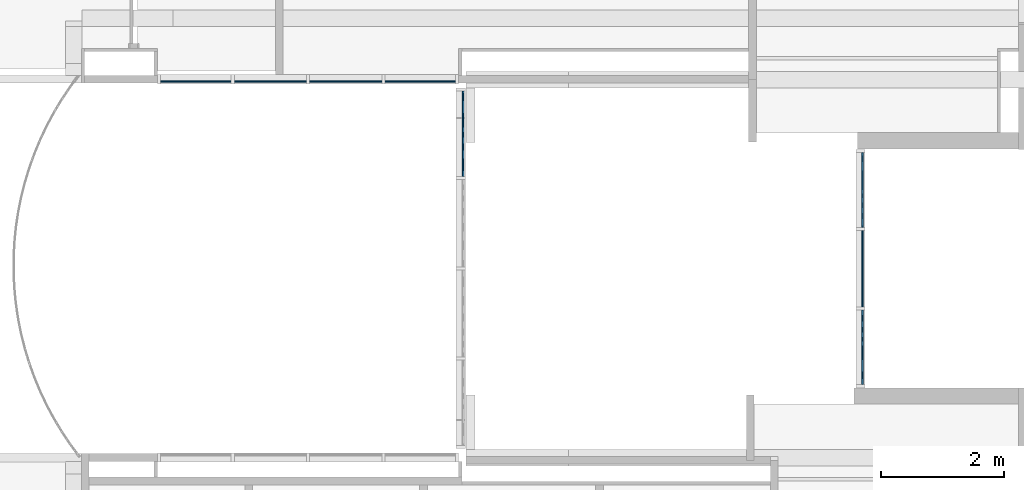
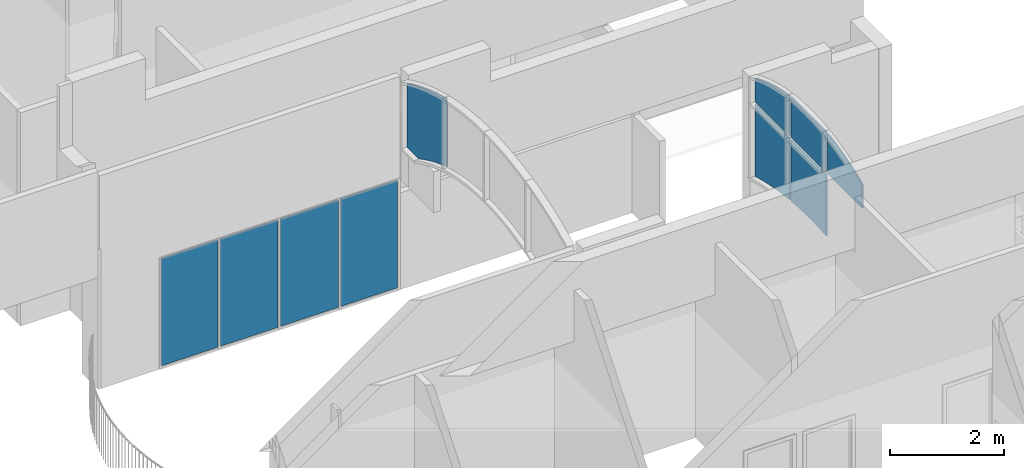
# One storey, part 5 of 45: 10 plates, 3 elements without a shape of their own.
"""IFC2X3 building model written with IfcOpenShell, lengths in metres."""

from ifc_helpers import new_model, entity, si_unit, converted_unit, frame, frame_2d, origin, origin_2d_with_axis, place, context, project, spatial, polyline, circle_curve, parameter, trimmed, segment, composite_curve, rectangle, outline, extrude, face_set, surface_model, source, transform, mapped, material, type_object, type_shapes, element, aggregate, save


model = new_model("IFC2X3")

# Units and contexts
model_context = context("Model", 3, precision=1e-09, world=origin())
plan_context = context("Plan", 3, precision=1e-09, world=origin())
ifc_project = project(units=[si_unit("LENGTHUNIT", "METRE"), si_unit("AREAUNIT", "SQUARE_METRE"), si_unit("VOLUMEUNIT", "CUBIC_METRE"), converted_unit("PLANEANGLEUNIT", "DEGREE", entity("IfcRatioMeasure", 0.01745329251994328), si_unit("PLANEANGLEUNIT", "RADIAN"), dimensions=[0, 0, 0, 0, 0, 0, 0]), si_unit("TIMEUNIT", "SECOND")], contexts=[model_context, plan_context])

# Site, building, storey
site_placement = place(None, origin())
site = spatial("IfcSite", under=ifc_project, at=site_placement, Name="Default", CompositionType="ELEMENT")
building_placement = place(site_placement, origin())
building = spatial("IfcBuilding", under=site, at=building_placement, CompositionType="ELEMENT")
storey_placement = place(building_placement, frame((0.0, 0.0, 4.570000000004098)))
storey = spatial("IfcBuildingStorey", under=building, at=storey_placement, Name="Second Floor", CompositionType="ELEMENT", Elevation=4.570000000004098)

# Curtain wall, plates
curtain_wall_1_placement = place(storey_placement, origin())
curtain_wall_1 = element("IfcCurtainWall", 1, at=curtain_wall_1_placement, inside=storey, Name="Curtain Wall:Storefront", ObjectType="Curtain Wall:Storefront")
ifc_material = material(Name="Glass")
plate_type_1 = type_object("IfcPlateType", Name="Glazed", PredefinedType="CURTAIN_PANEL")
shared_shape_1 = source(origin(), model_context, "Body", "SweptSolid", [
    extrude(rectangle(XDim=0.025, YDim=1.147693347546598, at=origin_2d_with_axis()), frame((0.0, 0.037, 0.0), z_axis=(0.0, 0.0, 1.0), x_axis=(0.0, 1.0, 0.0)), (0.0, 0.0, 1.0), 2.3),
])
type_shapes(plate_type_1, [shared_shape_1])
plate_1_placement = place(storey_placement, frame((-9.605573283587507, 34.7718015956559, 0.05), z_axis=(0.0, 0.0, 1.0), x_axis=(-1.0, 0.0, 0.0)))
plate_1 = element("IfcPlate", 2, at=plate_1_placement, type_object=plate_type_1, material=ifc_material, Name="System Panel:Glazed:Glazed", ObjectType="Glazed", context=model_context, shape_type="MappedRepresentation", body=[
    mapped(shared_shape_1, transform((0.0, 0.0, 0.0), scale=1.0)),
])
plate_2_placement = place(storey_placement, frame((-13.2486533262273, 34.77180159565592, 0.05), z_axis=(0.0, 0.0, 1.0), x_axis=(-1.0, 0.0, 0.0)))
plate_2 = element("IfcPlate", 3, at=plate_2_placement, type_object=plate_type_1, material=ifc_material, Name="System Panel:Glazed:Glazed", ObjectType="Glazed", context=model_context, shape_type="MappedRepresentation", body=[
    mapped(shared_shape_1, transform((0.0, 0.0, 0.0), scale=1.0)),
])
plate_type_2 = type_object("IfcPlateType", Name="Glazed", PredefinedType="CURTAIN_PANEL")
shared_shape_2 = source(origin(), model_context, "Body", "SweptSolid", [
    extrude(rectangle(XDim=0.025, YDim=1.172693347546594, at=origin_2d_with_axis()), frame((0.0, 0.037, 0.0), z_axis=(0.0, 0.0, 1.0), x_axis=(0.0, 1.0, 0.0)), (0.0, 0.0, 1.0), 2.3),
])
type_shapes(plate_type_2, [shared_shape_2])
plate_3_placement = place(storey_placement, frame((-12.0384599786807, 34.77180159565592, 0.05), z_axis=(0.0, 0.0, 1.0), x_axis=(-1.0, 0.0, 0.0)))
plate_3 = element("IfcPlate", 4, at=plate_3_placement, type_object=plate_type_2, material=ifc_material, Name="System Panel:Glazed:Glazed", ObjectType="Glazed", context=model_context, shape_type="MappedRepresentation", body=[
    mapped(shared_shape_2, transform((0.0, 0.0, 0.0), scale=1.0)),
])
plate_4_placement = place(storey_placement, frame((-10.8157666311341, 34.77180159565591, 0.05), z_axis=(0.0, 0.0, 1.0), x_axis=(-1.0, 0.0, 0.0)))
plate_4 = element("IfcPlate", 5, at=plate_4_placement, type_object=plate_type_2, material=ifc_material, Name="System Panel:Glazed:Glazed", ObjectType="Glazed", context=model_context, shape_type="MappedRepresentation", body=[
    mapped(shared_shape_2, transform((0.0, 0.0, 0.0), scale=1.0)),
])
aggregate(curtain_wall_1, [plate_3, plate_4, plate_1, plate_2])

curtain_wall_2_placement = place(storey_placement, origin())
curtain_wall_2 = element("IfcCurtainWall", 6, at=curtain_wall_2_placement, inside=storey, Name="Curtain Wall:Storefront", ObjectType="Curtain Wall:Storefront")
plate_type_3 = type_object("IfcPlateType", Name="Glazed", PredefinedType="CURTAIN_PANEL")
shared_shape_3 = source(origin(), model_context, "Body", "SweptSolid", [
    extrude(outline(composite_curve([segment(polyline([(-0.8340070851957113, -0.6075000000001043), (0.7188856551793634, -0.6075000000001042)]), True, "CONTINUOUS"), segment(polyline([(0.7188856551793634, -0.6075000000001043), (0.7188856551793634, 0.6075000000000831)]), True, "CONTINUOUS"), segment(polyline([(0.7188856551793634, 0.6075000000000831), (-0.60376422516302, 0.6075000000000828)]), True, "CONTINUOUS"), segment(trimmed(circle_curve(frame_2d((-7.460299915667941, 1.277499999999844), x_axis=(0.9591411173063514, -0.2829281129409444)), 6.889193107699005), [parameter(0.5554313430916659)], [parameter(10.85398953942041)], True, "PARAMETER"), False, "CONTINUOUS")], self_intersect=False)), frame((0.0, 0.02450000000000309, 0.8340070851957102), z_axis=(0.0, 1.0, 0.0), x_axis=(0.0, 0.0, 1.0)), (0.0, 0.0, 1.0), 0.025),
])
type_shapes(plate_type_3, [shared_shape_3])
plate_5_placement = place(storey_placement, frame((-2.454499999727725, 32.97249999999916, 0.8221072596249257), z_axis=(0.0, 0.0, 1.0), x_axis=(0.0, -1.0, 0.0)))
plate_5 = element("IfcPlate", 7, at=plate_5_placement, type_object=plate_type_3, material=ifc_material, Name="System Panel:Glazed:Glazed", ObjectType="Glazed", context=model_context, shape_type="MappedRepresentation", body=[
    mapped(shared_shape_3, transform((0.0, 0.0, 0.0), scale=1.0)),
])
plate_type_4 = type_object("IfcPlateType", Name="Glazed", PredefinedType="CURTAIN_PANEL")
shared_shape_4 = source(origin(), model_context, "Body", "SurfaceModel", [
    surface_model("IfcFaceBasedSurfaceModel", [(0.001595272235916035, 0.0, 0.001595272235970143), (0.001595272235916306, 0.0, 1.319543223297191), (1.241595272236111, 0.0, 1.319543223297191), (1.241595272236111, 0.0, 0.001595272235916), (0.9939177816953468, 0.0, 0.01948242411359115), (0.7457565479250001, 0.0, 0.02843181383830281), (0.4974339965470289, 0.0, 0.02843181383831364), (0.2492727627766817, 0.0, 0.01948242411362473), (0.001595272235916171, 0.025, 0.00159527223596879), (0.2492727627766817, 0.025, 0.01948242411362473), (0.4974339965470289, 0.025, 0.02843181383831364), (0.7457565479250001, 0.025, 0.02843181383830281), (0.9939177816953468, 0.025, 0.01948242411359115), (1.241595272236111, 0.025, 0.001595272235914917), (1.241595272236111, 0.025, 1.319543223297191), (0.001595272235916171, 0.025, 1.319543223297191)], [face_set([[[0, 1, 2, 3, 4, 5, 6, 7]], [[8, 9, 10, 11, 12, 13, 14, 15]], [[10, 6, 7, 9]], [[7, 0, 8, 9]], [[6, 10, 11, 5]], [[12, 4, 5, 11]], [[13, 3, 4, 12]], [[2, 3, 13, 14]], [[1, 15, 14, 2]], [[0, 8, 15, 1]]])]),
])
type_shapes(plate_type_4, [shared_shape_4])
plate_6_placement = place(storey_placement, frame((-2.429999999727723, 32.31659527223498, 1.055456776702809), z_axis=(0.0, 0.0, 1.0), x_axis=(0.0, -1.0, 0.0)))
plate_6 = element("IfcPlate", 8, at=plate_6_placement, type_object=plate_type_4, material=ifc_material, Name="System Panel:Glazed:Glazed", ObjectType="Glazed", context=model_context, shape_type="MappedRepresentation", body=[
    mapped(shared_shape_4, transform((0.0, 0.0, 0.0), scale=1.0)),
])

# Curtain wall, plate
curtain_wall_3_placement = place(storey_placement, origin())
curtain_wall_3 = element("IfcCurtainWall", 9, at=curtain_wall_3_placement, inside=storey, Name="Curtain Wall:Storefront", ObjectType="Curtain Wall:Storefront")
plate_type_5 = type_object("IfcPlateType", Name="Glazed", PredefinedType="CURTAIN_PANEL")
shared_shape_5 = source(origin(), model_context, "Body", "SweptSolid", [
    extrude(outline(composite_curve([segment(polyline([(-0.7322350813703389, -0.6419297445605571), (0.6361005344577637, -0.6419297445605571)]), True, "CONTINUOUS"), segment(trimmed(circle_curve(frame_2d((-5.102262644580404, 2.248020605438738), x_axis=(0.9737099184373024, -0.2277915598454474)), 6.425000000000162), [parameter(346.4363798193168)], [parameter(359.6665005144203)], True, "PARAMETER"), True, "CONTINUOUS"), segment(polyline([(1.145198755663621, 0.7480702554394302), (-0.3168291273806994, 0.7480702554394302)]), True, "CONTINUOUS"), segment(trimmed(circle_curve(frame_2d((-5.102262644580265, 2.248020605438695), x_axis=(0.8700961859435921, -0.4928819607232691)), 5.014999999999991), [parameter(0.15090790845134)], [parameter(12.12705890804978)], True, "PARAMETER"), False, "CONTINUOUS"), segment(polyline([(-0.7322350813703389, -0.21228102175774), (-0.7322350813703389, -0.6419297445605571)]), True, "CONTINUOUS")], self_intersect=False)), frame((-0.05307025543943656, 0.02449999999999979, 0.7322350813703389), z_axis=(0.0, 1.0, 0.0), x_axis=(0.0, 0.0, 1.0)), (0.0, 0.0, 1.0), 0.025),
])
type_shapes(plate_type_5, [shared_shape_5])
plate_7_placement = place(storey_placement, frame((-8.945999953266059, 33.88499999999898, 3.12), z_axis=(0.0, 0.0, 1.0), x_axis=(0.0, -1.0, 0.0)))
plate_7 = element("IfcPlate", 10, at=plate_7_placement, type_object=plate_type_5, material=ifc_material, Name="System Panel:Glazed:Glazed", ObjectType="Glazed", context=model_context, shape_type="MappedRepresentation", body=[
    mapped(shared_shape_5, transform((0.0, 0.0, 0.0), scale=1.0)),
])
aggregate(curtain_wall_3, [plate_7])

# Plate
plate_type_6 = type_object("IfcPlateType", Name="Glazed", PredefinedType="CURTAIN_PANEL")
shared_shape_6 = source(origin(), model_context, "Body", "SweptSolid", [
    extrude(rectangle(XDim=0.8680717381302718, YDim=0.025, at=frame_2d((0.0, 0.0), x_axis=(0.0, 1.0))), frame((-0.6200000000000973, 0.03699999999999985, 0.4340358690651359), z_axis=(1.0, 0.0, 0.0), x_axis=(0.0, 1.0, 0.0)), (0.0, 0.0, 1.0), 1.240000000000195),
])
type_shapes(plate_type_6, [shared_shape_6])
plate_8_placement = place(storey_placement, frame((-2.454499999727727, 31.69499999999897, 2.424999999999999), z_axis=(0.0, 0.0, 1.0), x_axis=(0.0, -1.0, 0.0)))
plate_8 = element("IfcPlate", 11, at=plate_8_placement, type_object=plate_type_6, material=ifc_material, Name="System Panel:Glazed:Glazed", ObjectType="Glazed", context=model_context, shape_type="MappedRepresentation", body=[
    mapped(shared_shape_6, transform((0.0, 0.0, 0.0), scale=1.0)),
])

plate_type_7 = type_object("IfcPlateType", Name="Glazed", PredefinedType="CURTAIN_PANEL")
shared_shape_7 = source(origin(), model_context, "Body", "SweptSolid", [
    extrude(outline(composite_curve([segment(polyline([(-0.341940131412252, -0.6075000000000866), (0.1648175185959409, -0.6075000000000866)]), True, "CONTINUOUS"), segment(trimmed(circle_curve(frame_2d((-4.039664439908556, 1.277500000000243), x_axis=(0.9903651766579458, -0.1384803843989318)), 4.607699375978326), [parameter(343.811745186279)], [parameter(359.5989700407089)], True, "PARAMETER"), True, "CONTINUOUS"), segment(polyline([(0.5190627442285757, 0.6075000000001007), (-0.341940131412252, 0.6075000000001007)]), True, "CONTINUOUS"), segment(polyline([(-0.341940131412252, 0.6075000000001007), (-0.341940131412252, -0.6075000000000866)]), True, "CONTINUOUS")], self_intersect=False)), frame((0.0, 0.02449999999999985, 0.341940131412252), z_axis=(0.0, 1.0, 0.0), x_axis=(0.0, 0.0, 1.0)), (0.0, 0.0, 1.0), 0.025),
])
type_shapes(plate_type_7, [shared_shape_7])
plate_9_placement = place(storey_placement, frame((-2.454499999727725, 32.97249999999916, 2.424999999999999), z_axis=(0.0, 0.0, 1.0), x_axis=(0.0, -1.0, 0.0)))
plate_9 = element("IfcPlate", 12, at=plate_9_placement, type_object=plate_type_7, material=ifc_material, Name="System Panel:Glazed:Glazed", ObjectType="Glazed", context=model_context, shape_type="MappedRepresentation", body=[
    mapped(shared_shape_7, transform((0.0, 0.0, 0.0), scale=1.0)),
])

plate_type_8 = type_object("IfcPlateType", Name="Glazed", PredefinedType="CURTAIN_PANEL")
shared_shape_8 = source(origin(), model_context, "Body", "SweptSolid", [
    extrude(outline(composite_curve([segment(polyline([(-0.3419401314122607, 0.6075000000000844), (-0.3419401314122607, -0.6075000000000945)]), True, "CONTINUOUS"), segment(polyline([(-0.3419401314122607, -0.6075000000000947), (0.1648175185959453, -0.6075000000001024)]), True, "CONTINUOUS"), segment(trimmed(circle_curve(frame_2d((-4.039664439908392, 1.277500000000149), x_axis=(0.9096200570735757, -0.4154411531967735)), 4.607699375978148), [parameter(0.3989240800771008)], [parameter(16.18614893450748)], True, "PARAMETER"), True, "CONTINUOUS"), segment(polyline([(0.5190627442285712, 0.6075000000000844), (-0.3419401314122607, 0.6075000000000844)]), True, "CONTINUOUS")], self_intersect=False)), frame((0.0, 0.02449999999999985, 0.3419401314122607), z_axis=(0.0, -1.0, 0.0), x_axis=(0.0, 0.0, 1.0)), (0.0, 0.0, -1.0), 0.025),
])
type_shapes(plate_type_8, [shared_shape_8])
plate_10_placement = place(storey_placement, frame((-2.454499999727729, 30.41749999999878, 2.424999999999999), z_axis=(0.0, 0.0, 1.0), x_axis=(0.0, -1.0, 0.0)))
plate_10 = element("IfcPlate", 13, at=plate_10_placement, type_object=plate_type_8, material=ifc_material, Name="System Panel:Glazed:Glazed", ObjectType="Glazed", context=model_context, shape_type="MappedRepresentation", body=[
    mapped(shared_shape_8, transform((0.0, 0.0, 0.0), scale=1.0)),
])

aggregate(curtain_wall_2, [plate_5, plate_6, plate_8, plate_10, plate_9])

save(model, "model.ifc")
